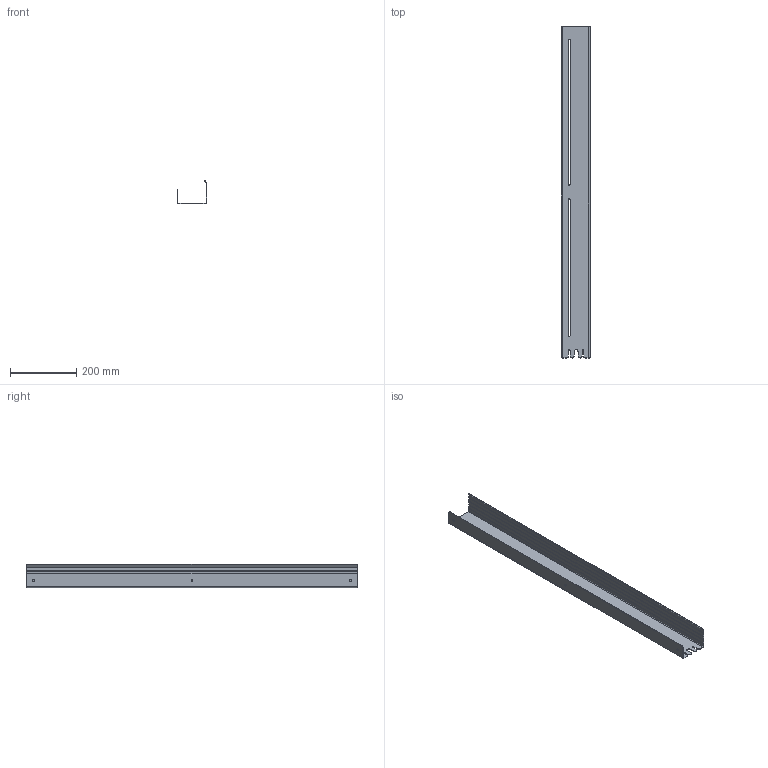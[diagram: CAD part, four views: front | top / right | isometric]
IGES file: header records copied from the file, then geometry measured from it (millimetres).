
Start section: IGES file generated by C3D Converter 1.5 translator by C3D Labs., translator version IGESOUT-5.1.
Global section: file name: D:\×åðòåæè èçäåëèé Âàííà 2023\Ïîëêè Simple Íîâûå\3D\×åðòåæè 22.07.2023\3D\S²MPLE_SHELF_1000.igs; preprocessor: 1.0; author: a.kalenyk83@gmail.com; organization: unknown; date: -17770622:112156; units: millimetre
Bounding box: 88.5 x 1000 x 72.1 mm (x, y, z)
Volume: 295390 mm3; surface area: 400293.1 mm2
Topology: 1 solids, 1 shells, 94 faces, 252 edges, 160 vertices
Faces by surface type: revolution 51, bspline 43
